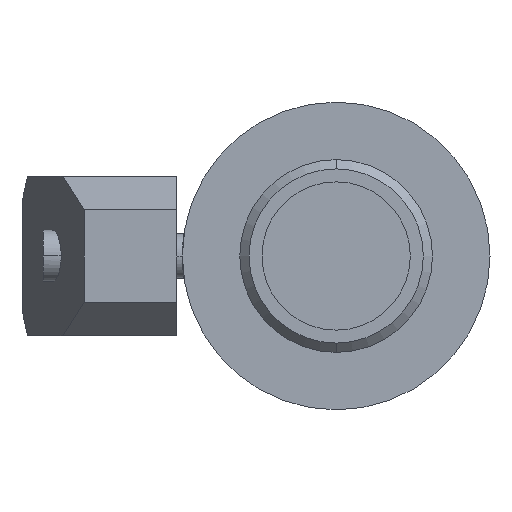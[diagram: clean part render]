
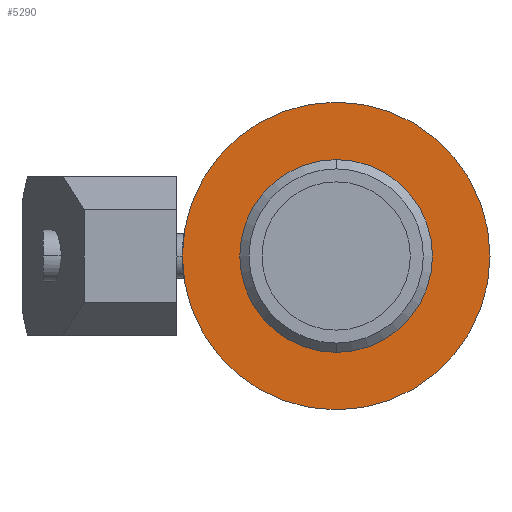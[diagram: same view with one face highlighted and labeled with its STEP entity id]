
A CAD part, left-side view. The second image highlights one B-rep face of the part: STEP entity #5290.
In plain terms, the highlighted planar face has unit normal (-1, 0, 0) as drawn and (1, 0, 0) by its records, which use the part's own axes.
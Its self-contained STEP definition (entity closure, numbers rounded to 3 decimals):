
#2740=CARTESIAN_POINT('',(-95.082,-28.723,
0.));
#2750=VERTEX_POINT('',#2740);
#2780=CARTESIAN_POINT('',(-95.082,12.777,0.));
#2790=DIRECTION('',(-1.,0.,0.));
#2800=DIRECTION('',(0.,0.,-1.));
#2810=AXIS2_PLACEMENT_3D('',#2780,#2790,#2800);
#2820=CIRCLE('',#2810,41.5);
#2830=CARTESIAN_POINT('',(-95.082,54.277,0.));
#2840=VERTEX_POINT('',#2830);
#2850=EDGE_CURVE('',#2840,#2750,#2820,.T.);
#5000=CARTESIAN_POINT('',(-95.082,51.927,0.));
#5010=DIRECTION('',(1.,0.,0.));
#5020=DIRECTION('',(0.,1.,0.));
#5030=AXIS2_PLACEMENT_3D('',#5000,#5010,#5020);
#5040=PLANE('',#5030);
#5050=CARTESIAN_POINT('',(-95.082,12.777,0.));
#5060=DIRECTION('',(-1.,0.,0.));
#5070=DIRECTION('',(0.,1.,0.));
#5080=AXIS2_PLACEMENT_3D('',#5050,#5060,#5070);
#5090=CIRCLE('',#5080,24.5);
#5100=CARTESIAN_POINT('',(-95.082,-11.723,0.));
#5110=VERTEX_POINT('',#5100);
#5120=CARTESIAN_POINT('',(-95.082,37.277,0.));
#5130=VERTEX_POINT('',#5120);
#5140=EDGE_CURVE('',#5110,#5130,#5090,.T.);
#5150=ORIENTED_EDGE('',*,*,#5140,.T.);
#5160=EDGE_CURVE('',#5130,#5110,#5090,.T.);
#5170=ORIENTED_EDGE('',*,*,#5160,.T.);
#5180=EDGE_LOOP('',(#5170,#5150));
#5190=FACE_BOUND('',#5180,.T.);
#5200=CARTESIAN_POINT('',(-95.082,12.777,41.5));
#5210=VERTEX_POINT('',#5200);
#5220=EDGE_CURVE('',#5210,#2840,#2820,.T.);
#5230=ORIENTED_EDGE('',*,*,#5220,.F.);
#5240=ORIENTED_EDGE('',*,*,#2850,.F.);
#5250=EDGE_CURVE('',#2750,#5210,#2820,.T.);
#5260=ORIENTED_EDGE('',*,*,#5250,.F.);
#5270=EDGE_LOOP('',(#5260,#5240,#5230));
#5280=FACE_OUTER_BOUND('',#5270,.T.);
#5290=ADVANCED_FACE('',(#5190,#5280),#5040,.T.);
